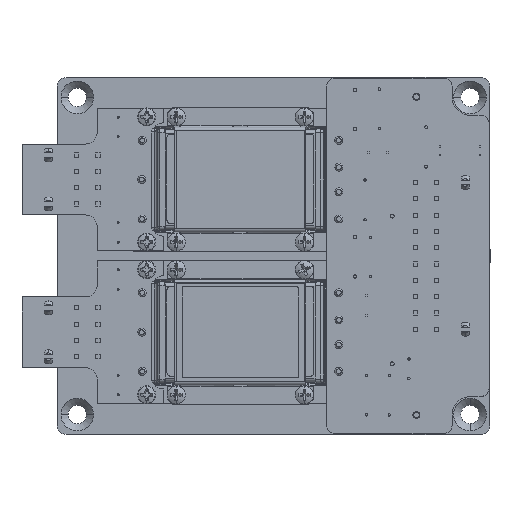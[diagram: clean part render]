
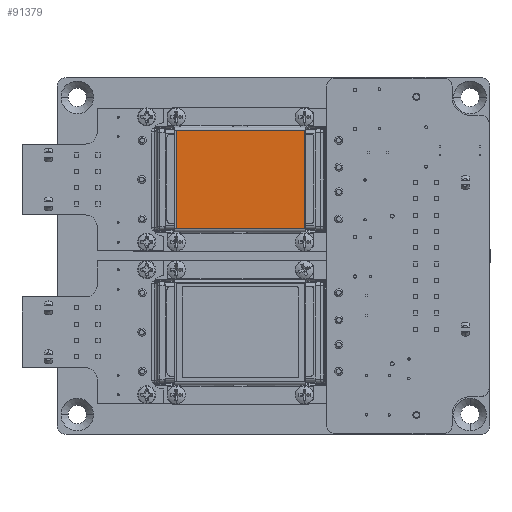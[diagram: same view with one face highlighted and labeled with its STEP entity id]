
A CAD part, top view. The second image highlights one B-rep face of the part: STEP entity #91379.
In plain terms, the highlighted planar face has unit normal (0, 0, 1).
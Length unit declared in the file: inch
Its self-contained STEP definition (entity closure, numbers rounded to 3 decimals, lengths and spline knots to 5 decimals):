
#69746 = PLANE ( 'NONE',  #93334 ) ;
#69747 = CARTESIAN_POINT ( 'NONE',  ( -10.5985, 6.4272, 0.7154 ) ) ;
#69748 = DIRECTION ( 'NONE',  ( 0., 0., 1. ) ) ;
#69749 = DIRECTION ( 'NONE',  ( 0., -1., 0. ) ) ;
#79372 = FACE_OUTER_BOUND ( 'NONE', #137000, .T. ) ;
#90860 = ORIENTED_EDGE ( 'NONE', *, *, #92007, .F. ) ;
#90861 = ORIENTED_EDGE ( 'NONE', *, *, #92009, .F. ) ;
#90863 = ORIENTED_EDGE ( 'NONE', *, *, #92004, .F. ) ;
#90865 = ORIENTED_EDGE ( 'NONE', *, *, #92011, .F. ) ;
#91379 = ADVANCED_FACE ( 'NONE', ( #79372 ), #69746, .T. ) ;
#92004 = EDGE_CURVE ( 'NONE', #126721, #126256, #120680, .T. ) ;
#92007 = EDGE_CURVE ( 'NONE', #126256, #126653, #120688, .T. ) ;
#92009 = EDGE_CURVE ( 'NONE', #126326, #126721, #120694, .T. ) ;
#92011 = EDGE_CURVE ( 'NONE', #126653, #126326, #120698, .T. ) ;
#93334 = AXIS2_PLACEMENT_3D ( 'NONE', #69747, #69748, #69749 ) ;
#114017 = VECTOR ( 'NONE', #118833, 39.37008 ) ;
#114021 = VECTOR ( 'NONE', #118863, 39.37008 ) ;
#114023 = VECTOR ( 'NONE', #118878, 39.37008 ) ;
#114024 = VECTOR ( 'NONE', #118919, 39.37008 ) ;
#118831 = CARTESIAN_POINT ( 'NONE',  ( -1.88205, 0.27584, 0.7154 ) ) ;
#118833 = DIRECTION ( 'NONE',  ( 0., -1., 0. ) ) ;
#118859 = CARTESIAN_POINT ( 'NONE',  ( -3.18595, 0.27584, 0.7154 ) ) ;
#118863 = DIRECTION ( 'NONE',  ( -1., 0., 0. ) ) ;
#118875 = CARTESIAN_POINT ( 'NONE',  ( -1.88205, 1.27884, 0.7154 ) ) ;
#118878 = DIRECTION ( 'NONE',  ( 1., 0., 0. ) ) ;
#118916 = CARTESIAN_POINT ( 'NONE',  ( -3.18595, 1.27884, 0.7154 ) ) ;
#118919 = DIRECTION ( 'NONE',  ( 0., 1., 0. ) ) ;
#120680 = LINE ( 'NONE', #118831, #114017 ) ;
#120688 = LINE ( 'NONE', #118859, #114021 ) ;
#120694 = LINE ( 'NONE', #118875, #114023 ) ;
#120698 = LINE ( 'NONE', #118916, #114024 ) ;
#126256 = VERTEX_POINT ( 'NONE', #191414 ) ;
#126326 = VERTEX_POINT ( 'NONE', #191444 ) ;
#126653 = VERTEX_POINT ( 'NONE', #191588 ) ;
#126721 = VERTEX_POINT ( 'NONE', #191617 ) ;
#137000 = EDGE_LOOP ( 'NONE', ( #90860, #90863, #90861, #90865 ) ) ;
#191414 = CARTESIAN_POINT ( 'NONE',  ( -1.88205, 0.27584, 0.7154 ) ) ;
#191444 = CARTESIAN_POINT ( 'NONE',  ( -3.18595, 1.27884, 0.7154 ) ) ;
#191588 = CARTESIAN_POINT ( 'NONE',  ( -3.18595, 0.27584, 0.7154 ) ) ;
#191617 = CARTESIAN_POINT ( 'NONE',  ( -1.88205, 1.27884, 0.7154 ) ) ;
